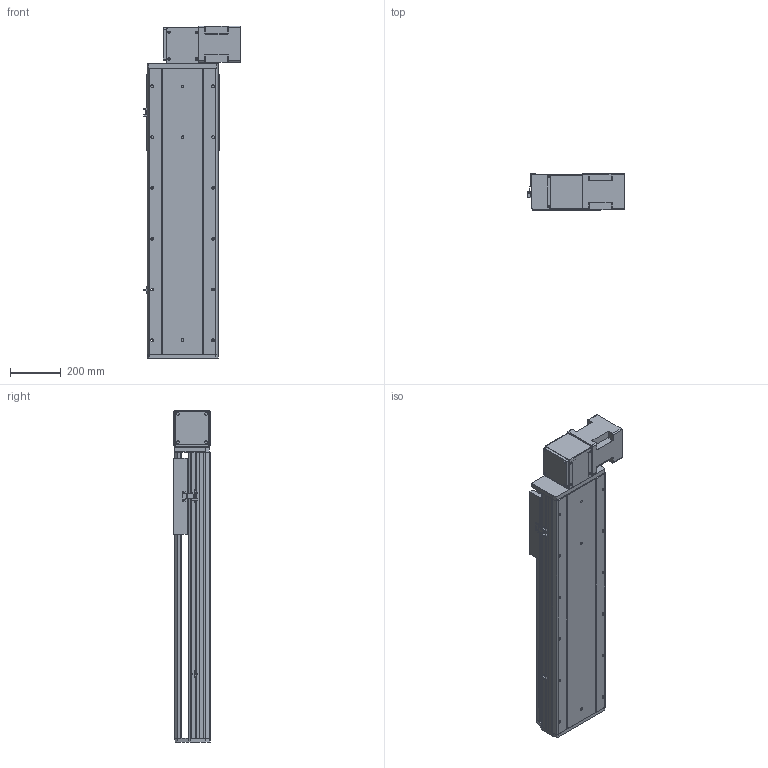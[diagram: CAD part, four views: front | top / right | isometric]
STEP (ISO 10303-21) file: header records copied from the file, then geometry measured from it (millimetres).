
FILE_DESCRIPTION (( 'STEP AP214' ), '1' );
FILE_NAME ('RTB28S-XX-700-BL-M100-XX-C4.STEP', '2025-12-22T02:17:59', ( '' ), ( '' ), 'SwSTEP 2.0', 'SolidWorks 2018', '' );
FILE_SCHEMA (( 'AUTOMOTIVE_DESIGN' ));
Length unit declared in the file: millimetre
Products named in the file (4): RTB28S-XX-700-BL-M100-XX-C4; RTB28S-GY-008^RTB28S-XX-XX-BL-M100-XX-C4; RTB28S-GY-004^RTB28S-XX-XX-BL-M100-XX-C4; RTB28S-GY-011^RTB28S-XX-XX-BL-M100-XX-C4
Assembly tree (3 placements, depth 2):
  RTB28S-XX-700-BL-M100-XX-C4
    RTB28S-GY-011^RTB28S-XX-XX-BL-M100-XX-C4
    RTB28S-GY-004^RTB28S-XX-XX-BL-M100-XX-C4
    RTB28S-GY-008^RTB28S-XX-XX-BL-M100-XX-C4
Bounding box: 380.7 x 145 x 1307 mm (x, y, z)
Volume: 24895318 mm3; surface area: 2433796.5 mm2
Topology: 3 solids, 4 shells, 768 faces, 2028 edges, 1288 vertices
Faces by surface type: cylinder 343, plane 341, cone 80, torus 4
Entity records: 28541 total; most frequent: CARTESIAN_POINT 4702, DIRECTION 4290, ORIENTED_EDGE 3992, EDGE_CURVE 1996, AXIS2_PLACEMENT_3D 1540, VERTEX_POINT 1288, VECTOR 1210, LINE 1210
